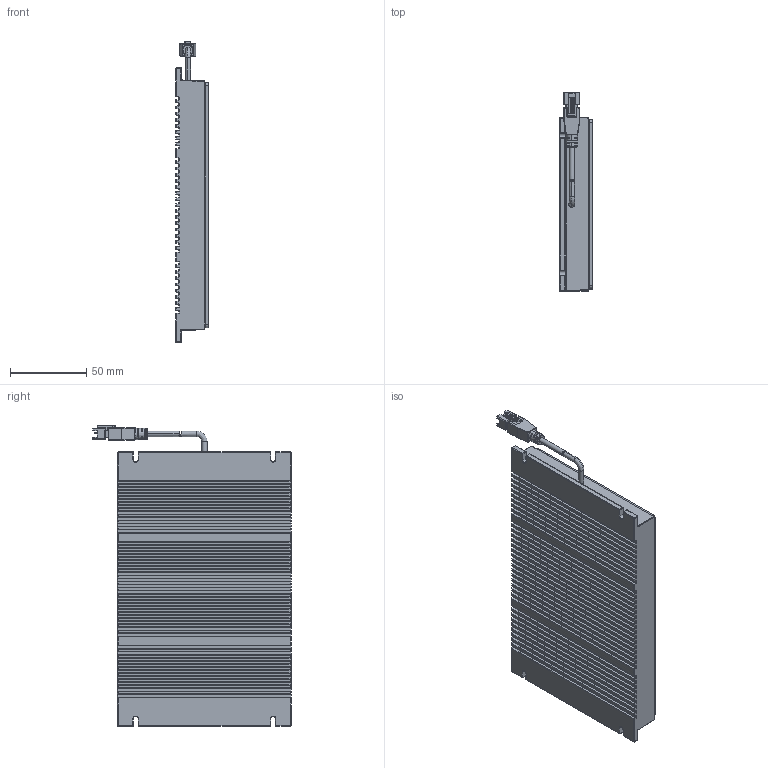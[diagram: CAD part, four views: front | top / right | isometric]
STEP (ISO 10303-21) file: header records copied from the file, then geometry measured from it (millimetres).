
FILE_DESCRIPTION (( 'STEP AP214' ), '1' );
FILE_NAME ('CST-PHFS150100-¼òÒ×3DÍ¼.STEP', '2022-05-26T06:42:38', ( '' ), ( '' ), 'SwSTEP 2.0', 'SolidWorks 2018', '' );
FILE_SCHEMA (( 'AUTOMOTIVE_DESIGN' ));
Length unit declared in the file: millimetre
Products named in the file (2): CST-PHFS150100-潠眢3D芞
Bounding box: 21.44 x 130.22 x 197.17 mm (x, y, z)
Surface area: 249679.1 mm2 (no closed solid volume)
Topology: 0 solids, 8 shells, 2334 faces, 6112 edges, 3167 vertices
Faces by surface type: cylinder 985, bspline 901, plane 418, cone 24, torus 6
Entity records: 112057 total; most frequent: CARTESIAN_POINT 35637, ORIENTED_EDGE 10899, DIRECTION 10762, EDGE_CURVE 5473, AXIS2_PLACEMENT_3D 4316, VERTEX_POINT 3167, CIRCLE 2881, EDGE_LOOP 2410
